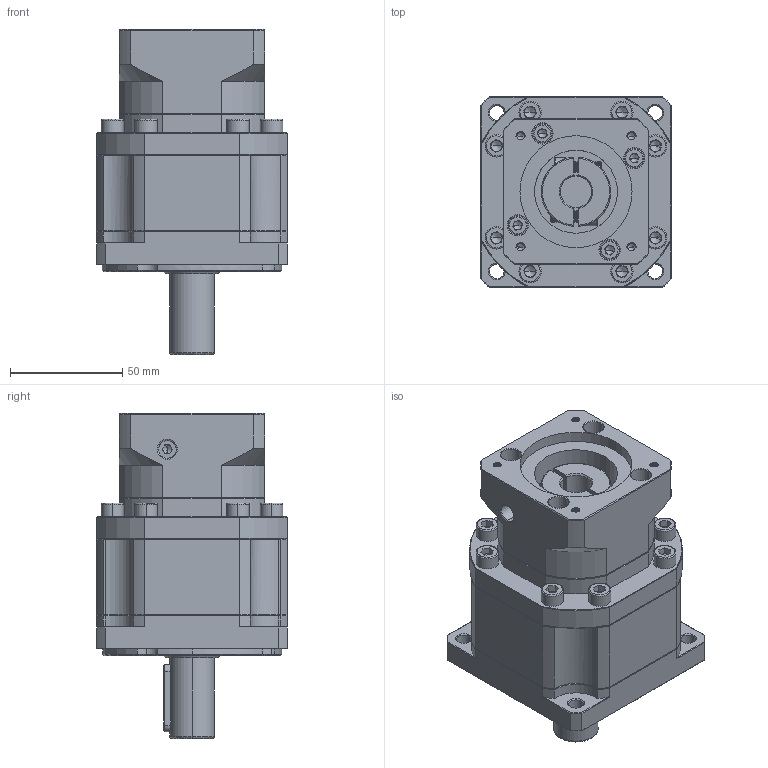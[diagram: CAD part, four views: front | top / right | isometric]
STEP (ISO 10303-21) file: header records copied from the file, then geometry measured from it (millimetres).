
FILE_DESCRIPTION (( 'STEP AP214' ), '1' );
FILE_NAME ('ZB090-D20-L2-P2-14-50-70-M4.step', '2023-08-18T13:32:42', ( '' ), ( '' ), 'SwSTEP 2.0', 'SolidWorks 2016', '' );
FILE_SCHEMA (( 'AUTOMOTIVE_DESIGN' ));
Length unit declared in the file: millimetre
Products named in the file (1): ZB090-D20-L2-P2-14-50-70-M4
Bounding box: 85 x 85 x 145 mm (x, y, z)
Volume: 542648.5 mm3; surface area: 76492.2 mm2
Topology: 6 solids, 6 shells, 2349 faces, 6247 edges, 3994 vertices
Faces by surface type: plane 1185, bspline 426, cylinder 394, cone 322, torus 22
Entity records: 123070 total; most frequent: CARTESIAN_POINT 42158, ORIENTED_EDGE 12402, DIRECTION 9889, EDGE_CURVE 6201, VERTEX_POINT 3994, VECTOR 3925, LINE 3925, AXIS2_PLACEMENT_3D 2982
